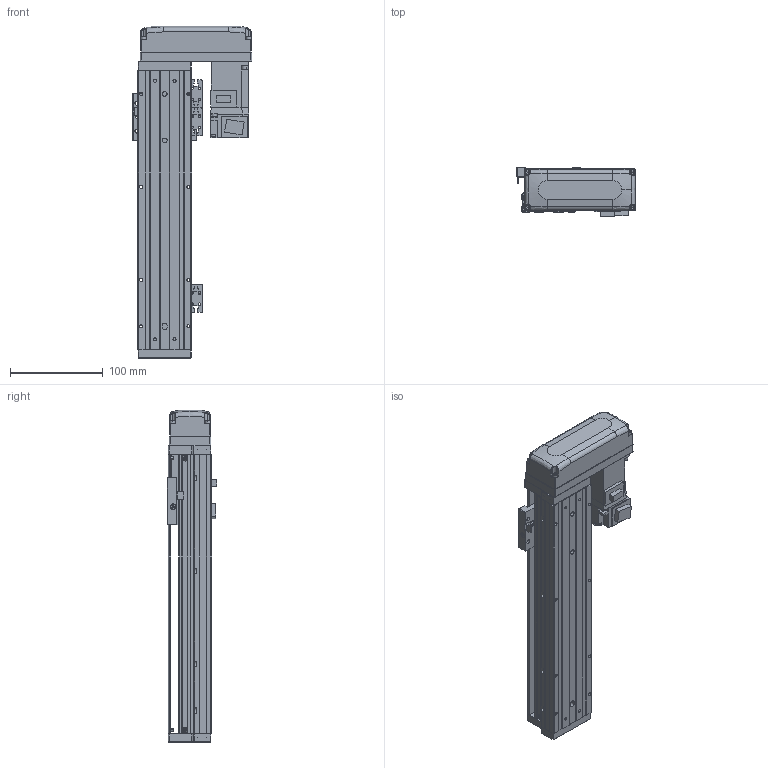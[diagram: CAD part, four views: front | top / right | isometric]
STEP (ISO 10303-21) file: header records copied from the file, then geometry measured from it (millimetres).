
FILE_DESCRIPTION (( 'STEP AP203' ), '1' );
FILE_NAME ('KTHA50-200-BL-M10-C4L.step', '2022-03-19T07:05:49', ( '微软用户' ), ( '微软中国' ), 'SwSTEP 2.0', 'SolidWorks 2020', '' );
FILE_SCHEMA (( 'CONFIG_CONTROL_DESIGN' ));
Length unit declared in the file: millimetre
Products named in the file (18): EE_SX911P_R; GBT 70.3-M3℅6; GBT 70.1-M3×15; GBT77-2000 M3×3; HG-KR13（三菱）; KTHA50-200-BL-M10-C4L; KTHA50-001_300; GBT 70.1-M3℅6; CTHA50-015-2_CTHA60-015-2; KTHA50-002; CTHA60-017; KTHA50-004; GBT 70.1-M4×12; KTHA50-005; CTHA60-016; GB¨uT 70.2-M3¡Á6_M3¡Á6; CTHA60-021; CTHA60-033
Assembly tree (53 placements, depth 2):
  KTHA50-200-BL-M10-C4L
    KTHA50-001_300
    KTHA50-002
    KTHA50-004
    KTHA50-005
    GB¨uT 70.2-M3¡Á6_M3¡Á6  x6
    EE_SX911P_R  x3
    GBT77-2000 M3×3  x6
    GBT 70.1-M3℅6  x6
    CTHA60-017  x3
    GBT 70.1-M4×12  x10
    CTHA60-016  x2
    CTHA60-021  x2
    GBT 70.3-M3℅6  x4
    HG-KR13（三菱）
    CTHA50-015-2_CTHA60-015-2
    CTHA60-033
    GBT 70.1-M3×15  x4
Bounding box: 128.4 x 53.3 x 357 mm (x, y, z)
Volume: 870211 mm3; surface area: 214891.2 mm2
Topology: 56 solids, 56 shells, 2223 faces, 5239 edges, 3208 vertices
Faces by surface type: plane 1240, cylinder 538, cone 303, torus 100, bspline 26, sphere 16
Entity records: 36943 total; most frequent: CARTESIAN_POINT 7010, DIRECTION 5745, ORIENTED_EDGE 5490, EDGE_CURVE 2745, AXIS2_PLACEMENT_3D 1959, LINE 1827, VECTOR 1827, VERTEX_POINT 1722
